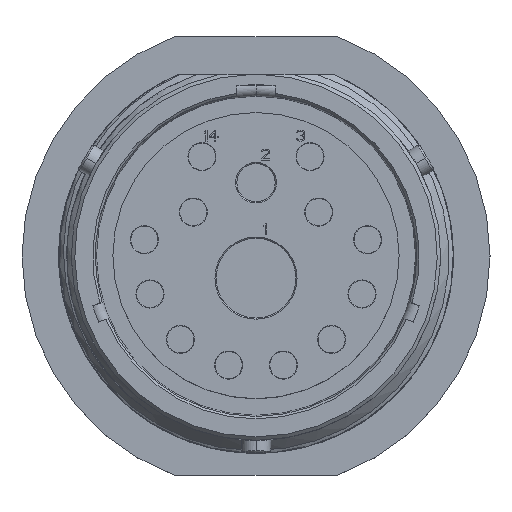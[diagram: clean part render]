
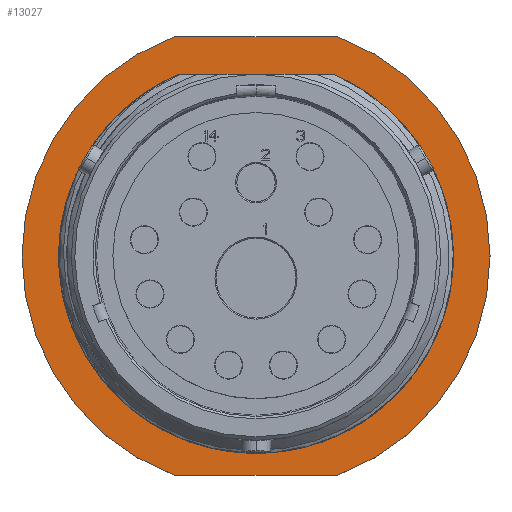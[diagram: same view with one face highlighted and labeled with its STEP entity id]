
A CAD part, top view. The second image highlights one B-rep face of the part: STEP entity #13027.
In plain terms, the highlighted planar face has unit normal (0, 0, 1).
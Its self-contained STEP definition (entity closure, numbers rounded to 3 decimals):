
#2344=CARTESIAN_POINT('',(0.,0.,-26.162));
#2345=DIRECTION('',(0.,0.,-1.));
#2346=DIRECTION('',(0.397,0.918,0.));
#2347=AXIS2_PLACEMENT_3D('',#2344,#2345,#2346);
#2353=DIRECTION('',(-1.,0.,0.));
#2354=VECTOR('',#2353,17.678);
#2355=CARTESIAN_POINT('',(8.839,-23.813,-26.162));
#2356=LINE('',#2355,#2354);
#2357=CARTESIAN_POINT('',(0.,0.,-26.162));
#2358=DIRECTION('',(0.,0.,1.));
#2359=DIRECTION('',(-0.348,0.938,0.));
#2360=AXIS2_PLACEMENT_3D('',#2357,#2358,#2359);
#2362=DIRECTION('',(1.,0.,0.));
#2363=VECTOR('',#2362,17.678);
#2364=CARTESIAN_POINT('',(-8.839,23.813,-26.162));
#2365=LINE('',#2364,#2363);
#2366=CARTESIAN_POINT('',(0.,0.,-26.162));
#2367=DIRECTION('',(0.,0.,-1.));
#2368=DIRECTION('',(0.348,0.938,0.));
#2369=AXIS2_PLACEMENT_3D('',#2366,#2367,#2368);
#2371=DIRECTION('',(1.,0.,0.));
#2372=VECTOR('',#2371,17.035);
#2373=CARTESIAN_POINT('',(-8.518,19.666,-26.162));
#2374=LINE('',#2373,#2372);
#6169=CARTESIAN_POINT('',(-8.839,-23.813,-26.162));
#6170=VERTEX_POINT('',#6169);
#6171=CARTESIAN_POINT('',(-8.839,23.813,-26.162));
#6172=VERTEX_POINT('',#6171);
#6173=CARTESIAN_POINT('',(8.839,-23.813,-26.162));
#6174=VERTEX_POINT('',#6173);
#6175=CARTESIAN_POINT('',(8.839,23.813,-26.162));
#6176=VERTEX_POINT('',#6175);
#6556=CARTESIAN_POINT('',(-8.518,19.666,-26.162));
#6558=VERTEX_POINT('',#6556);
#6602=CARTESIAN_POINT('',(8.518,19.666,-26.162));
#6603=VERTEX_POINT('',#6602);
#13008=CARTESIAN_POINT('',(0.,0.,-26.162));
#13009=DIRECTION('',(0.,0.,1.));
#13010=DIRECTION('',(0.,1.,0.));
#13011=AXIS2_PLACEMENT_3D('',#13008,#13009,#13010);
#13012=PLANE('',#13011);
#13014=ORIENTED_EDGE('',*,*,#13013,.T.);
#13016=ORIENTED_EDGE('',*,*,#13015,.F.);
#13018=ORIENTED_EDGE('',*,*,#13017,.T.);
#13020=ORIENTED_EDGE('',*,*,#13019,.T.);
#13021=EDGE_LOOP('',(#13014,#13016,#13018,#13020));
#13022=FACE_OUTER_BOUND('',#13021,.F.);
#13023=ORIENTED_EDGE('',*,*,#13002,.F.);
#13024=ORIENTED_EDGE('',*,*,#7884,.F.);
#13025=EDGE_LOOP('',(#13023,#13024));
#13026=FACE_BOUND('',#13025,.F.);
#13027=ADVANCED_FACE('',(#13022,#13026),#13012,.T.);
#2348=CIRCLE('',#2347,21.431);
#2361=CIRCLE('',#2360,25.4);
#2370=CIRCLE('',#2369,25.4);
#7884=EDGE_CURVE('',#6558,#6603,#2374,.T.);
#13002=EDGE_CURVE('',#6603,#6558,#2348,.T.);
#13013=EDGE_CURVE('',#6174,#6170,#2356,.T.);
#13015=EDGE_CURVE('',#6172,#6170,#2361,.T.);
#13017=EDGE_CURVE('',#6172,#6176,#2365,.T.);
#13019=EDGE_CURVE('',#6176,#6174,#2370,.T.);
